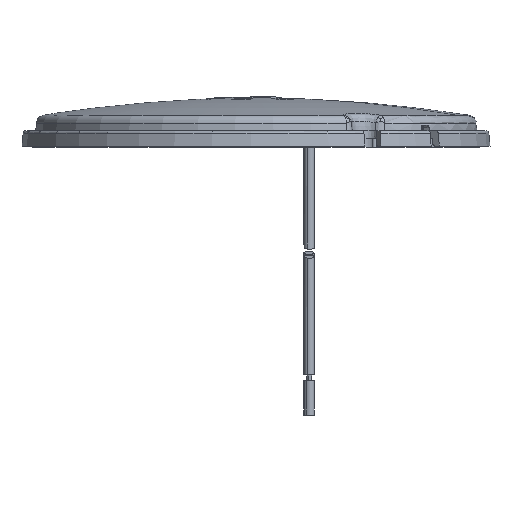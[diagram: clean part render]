
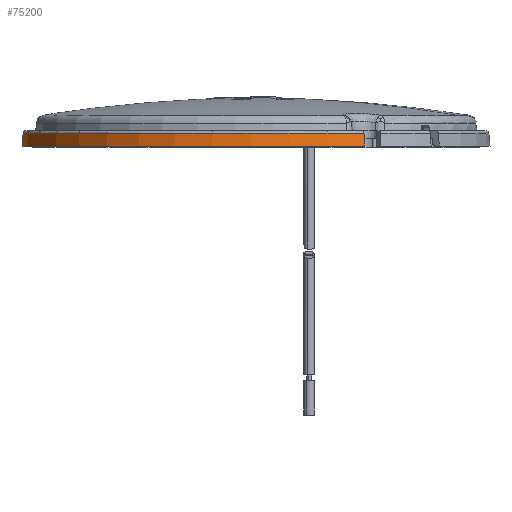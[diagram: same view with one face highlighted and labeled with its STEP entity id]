
A CAD part, left-side view. The second image highlights one B-rep face of the part: STEP entity #75200.
In plain terms, the highlighted conical face has half-angle 5 degrees and reference radius 40.75 mm.
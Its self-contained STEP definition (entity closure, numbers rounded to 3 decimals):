
#73290=CARTESIAN_POINT('',(-43.659,280.76,
-7.874));
#73300=DIRECTION('',(-0.865,-0.035,
-0.5));
#73310=DIRECTION('',(-0.5,0.,0.866));
#73320=AXIS2_PLACEMENT_3D('',#73290,#73300,#73310);
#73330=PLANE('',#73320);
#73940=CARTESIAN_POINT('',(-63.556,280.76,
26.589));
#73950=VERTEX_POINT('',#73940);
#73980=CARTESIAN_POINT('',(-41.811,280.76,
-7.874));
#73990=DIRECTION('',(0.,-1.,0.));
#74000=DIRECTION('',(-0.051,0.,
-0.999));
#74010=AXIS2_PLACEMENT_3D('',#73980,#73990,#74000);
#74020=CONICAL_SURFACE('',#74010,40.75,0.087);
#74030=CARTESIAN_POINT('',(-63.525,282.962,
26.381));
#74040=CARTESIAN_POINT('',(-63.526,282.87,
26.39));
#74050=CARTESIAN_POINT('',(-63.527,282.778,
26.398));
#74060=CARTESIAN_POINT('',(-63.529,282.686,
26.407));
#74070=CARTESIAN_POINT('',(-63.53,282.595,
26.416));
#74080=CARTESIAN_POINT('',(-63.531,282.503,
26.424));
#74090=CARTESIAN_POINT('',(-63.533,282.411,
26.433));
#74100=CARTESIAN_POINT('',(-63.535,282.228,
26.451));
#74110=CARTESIAN_POINT('',(-63.538,282.044,
26.468));
#74120=CARTESIAN_POINT('',(-63.54,281.861,
26.485));
#74130=CARTESIAN_POINT('',(-63.543,281.677,
26.503));
#74140=CARTESIAN_POINT('',(-63.546,281.494,
26.52));
#74150=CARTESIAN_POINT('',(-63.548,281.31,
26.537));
#74160=CARTESIAN_POINT('',(-63.55,281.219,
26.546));
#74170=CARTESIAN_POINT('',(-63.551,281.127,
26.555));
#74180=CARTESIAN_POINT('',(-63.552,281.035,
26.563));
#74190=CARTESIAN_POINT('',(-63.553,280.943,
26.572));
#74200=CARTESIAN_POINT('',(-63.555,280.852,
26.581));
#74210=CARTESIAN_POINT('',(-63.556,280.76,
26.589));
#74220=B_SPLINE_CURVE_WITH_KNOTS('',3,(#74030,#74040,#74050,#74060,
#74070,#74080,#74090,#74100,#74110,#74120,#74130,#74140,#74150,#74160,
#74170,#74180,#74190,#74200,#74210),.UNSPECIFIED.,.F.,.F.,(4,3,3,3,3,3,4
),(0.,0.276,0.553,1.106,
1.659,1.935,2.212),.UNSPECIFIED.);
#74230=SURFACE_CURVE('',#74220,(#74020,#73330),.CURVE_3D.);
#74240=CARTESIAN_POINT('',(-63.525,282.962,
26.381));
#74250=VERTEX_POINT('',#74240);
#74260=EDGE_CURVE('',#74250,#73950,#74230,.T.);
#74770=ORIENTED_EDGE('',*,*,#74260,.F.);
#74780=CARTESIAN_POINT('',(-41.811,280.76,
-7.874));
#74790=DIRECTION('',(0.,-1.,0.));
#74800=DIRECTION('',(-0.051,0.,
-0.999));
#74810=AXIS2_PLACEMENT_3D('',#74780,#74790,#74800);
#74820=CIRCLE('',#74810,40.75);
#74830=CARTESIAN_POINT('',(-63.556,280.76,
-42.337));
#74840=VERTEX_POINT('',#74830);
#74850=EDGE_CURVE('',#73950,#74840,#74820,.T.);
#74860=ORIENTED_EDGE('',*,*,#74850,.F.);
#74870=CARTESIAN_POINT('',(-43.659,280.76,
-7.874));
#74880=DIRECTION('',(-0.865,-0.035,
0.5));
#74890=DIRECTION('',(0.5,0.,
0.866));
#74900=AXIS2_PLACEMENT_3D('',#74870,#74880,#74890);
#74910=PLANE('',#74900);
#74920=CARTESIAN_POINT('',(-63.556,280.76,
-42.337));
#74930=CARTESIAN_POINT('',(-63.553,280.943,
-42.32));
#74940=CARTESIAN_POINT('',(-63.551,281.127,
-42.303));
#74950=CARTESIAN_POINT('',(-63.548,281.31,
-42.285));
#74960=CARTESIAN_POINT('',(-63.546,281.494,
-42.268));
#74970=CARTESIAN_POINT('',(-63.543,281.677,
-42.251));
#74980=CARTESIAN_POINT('',(-63.54,281.861,
-42.233));
#74990=CARTESIAN_POINT('',(-63.538,282.044,
-42.216));
#75000=CARTESIAN_POINT('',(-63.535,282.228,
-42.199));
#75010=CARTESIAN_POINT('',(-63.533,282.411,
-42.181));
#75020=CARTESIAN_POINT('',(-63.53,282.595,
-42.164));
#75030=CARTESIAN_POINT('',(-63.527,282.778,
-42.147));
#75040=CARTESIAN_POINT('',(-63.525,282.962,
-42.129));
#75050=B_SPLINE_CURVE_WITH_KNOTS('',3,(#74920,#74930,#74940,#74950,
#74960,#74970,#74980,#74990,#75000,#75010,#75020,#75030,#75040),
.UNSPECIFIED.,.F.,.F.,(4,3,3,3,4),(0.,0.553,1.106
,1.659,2.212),.UNSPECIFIED.);
#75060=SURFACE_CURVE('',#75050,(#74020,#74910),.CURVE_3D.);
#75070=CARTESIAN_POINT('',(-63.525,282.962,
-42.129));
#75080=VERTEX_POINT('',#75070);
#75090=EDGE_CURVE('',#74840,#75080,#75060,.T.);
#75100=ORIENTED_EDGE('',*,*,#75090,.F.);
#75110=CARTESIAN_POINT('',(-41.811,282.962,
-7.874));
#75120=DIRECTION('',(0.,-1.,0.));
#75130=DIRECTION('',(0.,0.,1.));
#75140=AXIS2_PLACEMENT_3D('',#75110,#75120,#75130);
#75150=CIRCLE('',#75140,40.557);
#75160=EDGE_CURVE('',#74250,#75080,#75150,.T.);
#75170=ORIENTED_EDGE('',*,*,#75160,.T.);
#75180=EDGE_LOOP('',(#75170,#75100,#74860,#74770));
#75190=FACE_OUTER_BOUND('',#75180,.T.);
#75200=ADVANCED_FACE('',(#75190),#74020,.T.);
